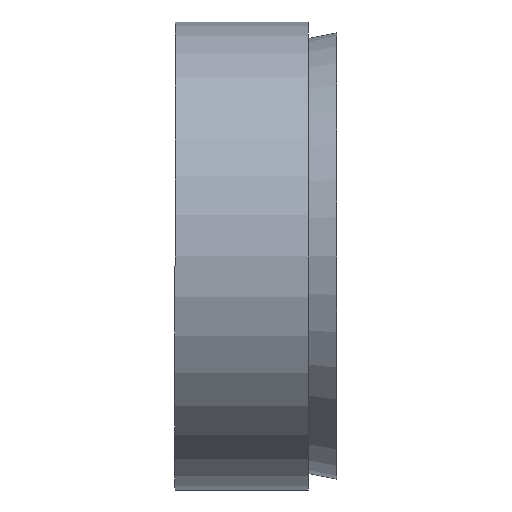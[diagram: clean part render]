
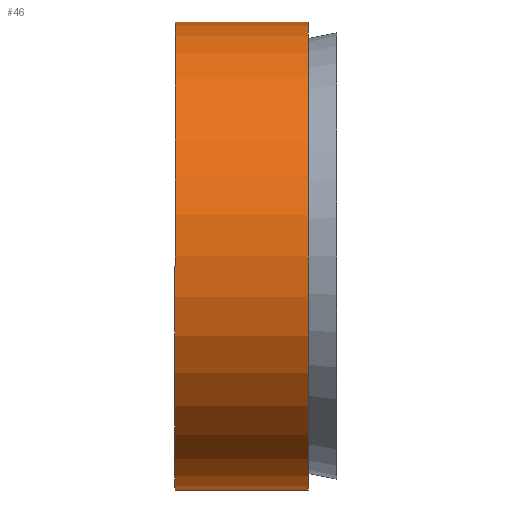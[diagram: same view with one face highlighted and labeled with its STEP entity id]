
A CAD part, left-side view. The second image highlights one B-rep face of the part: STEP entity #46.
In plain terms, the highlighted cylindrical face has radius 6.5 mm (diameter 13 mm), a full revolution.
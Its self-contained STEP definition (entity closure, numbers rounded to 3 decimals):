
#46 = ADVANCED_FACE( '', ( #93, #94 ), #95, .T. );
#93 = FACE_OUTER_BOUND( '', #132, .T. );
#94 = FACE_OUTER_BOUND( '', #133, .T. );
#95 = CYLINDRICAL_SURFACE( '', #134, 6.5 );
#132 = EDGE_LOOP( '', ( #179 ) );
#133 = EDGE_LOOP( '', ( #180 ) );
#134 = AXIS2_PLACEMENT_3D( '', #181, #182, #183 );
#179 = ORIENTED_EDGE( '', *, *, #189, .F. );
#180 = ORIENTED_EDGE( '', *, *, #198, .T. );
#181 = CARTESIAN_POINT( '', ( 0., -60., 0. ) );
#182 = DIRECTION( '', ( 0., 1., 0. ) );
#183 = DIRECTION( '', ( 0., 0., -1. ) );
#189 = EDGE_CURVE( '', #208, #208, #209, .T. );
#198 = EDGE_CURVE( '', #221, #221, #222, .T. );
#208 = VERTEX_POINT( '', #232 );
#209 = CIRCLE( '', #233, 6.5 );
#221 = VERTEX_POINT( '', #245 );
#222 = CIRCLE( '', #246, 6.5 );
#232 = CARTESIAN_POINT( '', ( 0., 0.8, -6.5 ) );
#233 = AXIS2_PLACEMENT_3D( '', #257, #258, #259 );
#245 = CARTESIAN_POINT( '', ( 0., 4.5, -6.5 ) );
#246 = AXIS2_PLACEMENT_3D( '', #269, #270, #271 );
#257 = CARTESIAN_POINT( '', ( 0., 0.8, 0. ) );
#258 = DIRECTION( '', ( 0., -1., 0. ) );
#259 = DIRECTION( '', ( 0., 0., -1. ) );
#269 = CARTESIAN_POINT( '', ( 0., 4.5, 0. ) );
#270 = DIRECTION( '', ( 0., -1., 0. ) );
#271 = DIRECTION( '', ( 0., 0., -1. ) );
